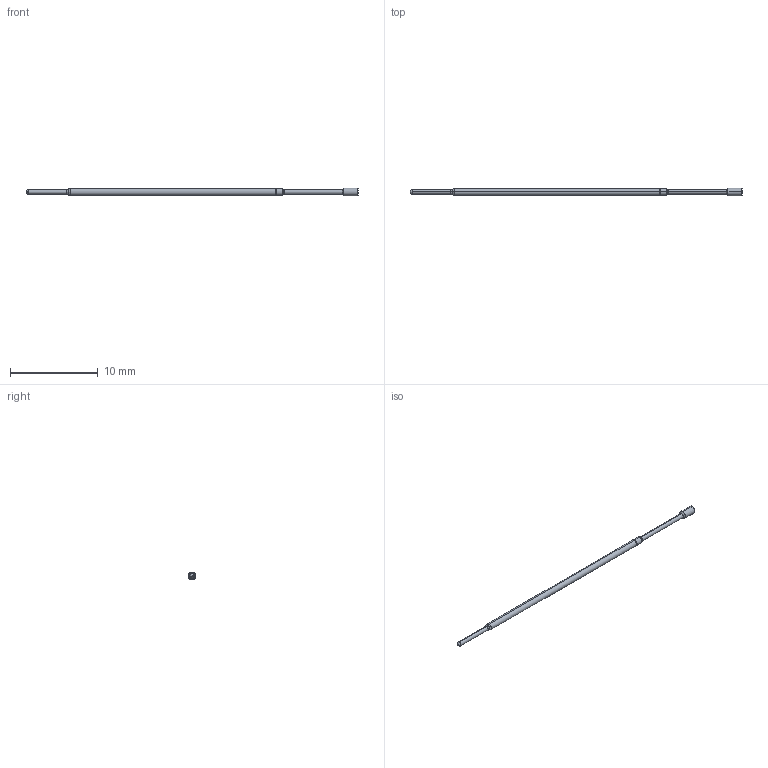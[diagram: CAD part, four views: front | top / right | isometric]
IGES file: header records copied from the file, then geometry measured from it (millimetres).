
Start section: SolidWorks IGES file using analytic representation for surfaces
Global section: file name: C:\Documents and Settings\mrumschlag\Desktop\changes\new\test\H21.IGS; native system: SolidWorks 2011; preprocessor: SolidWorks 2011; author: mrumschlag; date: 110630.142736; units: inch
Bounding box: 37.93 x 0.89 x 0.89 mm (x, y, z)
Surface area: 83.8 mm2 (no closed solid volume)
Topology: 0 solids, 0 shells, 119 faces, 486 edges, 484 vertices
Faces by surface type: bspline 101, revolution 18
